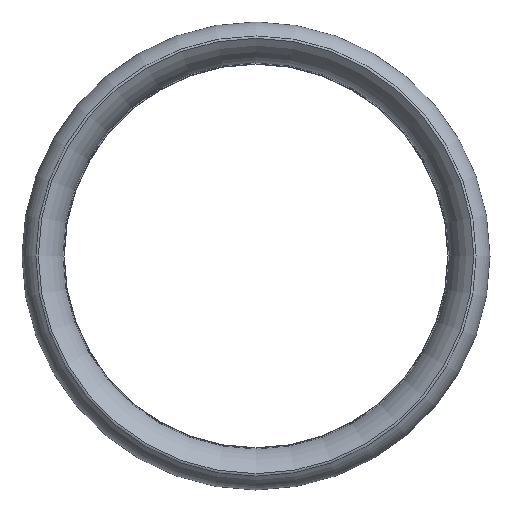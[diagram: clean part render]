
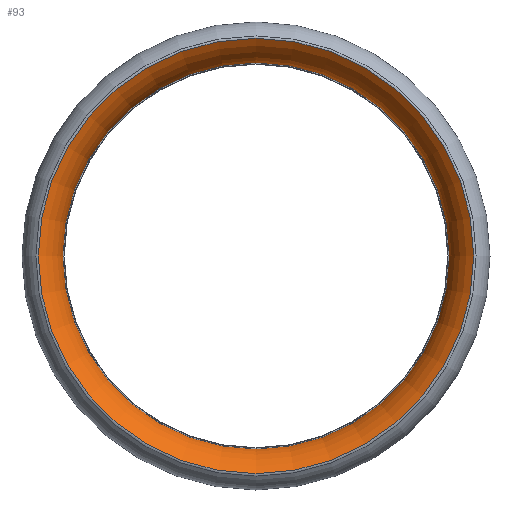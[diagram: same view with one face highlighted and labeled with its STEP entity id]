
A CAD part, front view. The second image highlights one B-rep face of the part: STEP entity #93.
In plain terms, the highlighted toroidal (fillet/blend) face has major radius 56.277 mm and minor radius 12.233 mm.
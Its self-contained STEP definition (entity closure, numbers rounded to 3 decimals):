
#7 = CARTESIAN_POINT ( 'NONE',  ( 0., -7.5, -50. ) ) ;
#13 = TOROIDAL_SURFACE ( 'NONE', #178, 56.277, 12.233 ) ;
#15 = DIRECTION ( 'NONE',  ( 0., -1., 0. ) ) ;
#18 = DIRECTION ( 'NONE',  ( 0., -1., 0. ) ) ;
#24 = VERTEX_POINT ( 'NONE', #91 ) ;
#50 = DIRECTION ( 'NONE',  ( 0., -1., 0. ) ) ;
#52 = CARTESIAN_POINT ( 'NONE',  ( 0., -7.5, 0. ) ) ;
#53 = FACE_OUTER_BOUND ( 'NONE', #173, .T. ) ;
#64 = EDGE_CURVE ( 'NONE', #24, #24, #189, .T. ) ;
#71 = CARTESIAN_POINT ( 'NONE',  ( 0., 0., 0. ) ) ;
#84 = EDGE_LOOP ( 'NONE', ( #114 ) ) ;
#87 = DIRECTION ( 'NONE',  ( 0., 0., -1. ) ) ;
#91 = CARTESIAN_POINT ( 'NONE',  ( 0., 0., 44.417 ) ) ;
#93 = ADVANCED_FACE ( 'NONE', ( #53, #98 ), #13, .T. ) ;
#98 = FACE_OUTER_BOUND ( 'NONE', #84, .T. ) ;
#101 = CARTESIAN_POINT ( 'NONE',  ( 0., 3., 0. ) ) ;
#114 = ORIENTED_EDGE ( 'NONE', *, *, #121, .T. ) ;
#119 = AXIS2_PLACEMENT_3D ( 'NONE', #71, #50, #122 ) ;
#121 = EDGE_CURVE ( 'NONE', #144, #144, #134, .T. ) ;
#122 = DIRECTION ( 'NONE',  ( 0., 0., 1. ) ) ;
#134 = CIRCLE ( 'NONE', #147, 50. ) ;
#144 = VERTEX_POINT ( 'NONE', #7 ) ;
#147 = AXIS2_PLACEMENT_3D ( 'NONE', #52, #15, #87 ) ;
#163 = DIRECTION ( 'NONE',  ( 0., 0., -1. ) ) ;
#173 = EDGE_LOOP ( 'NONE', ( #190 ) ) ;
#178 = AXIS2_PLACEMENT_3D ( 'NONE', #101, #18, #163 ) ;
#189 = CIRCLE ( 'NONE', #119, 44.417 ) ;
#190 = ORIENTED_EDGE ( 'NONE', *, *, #64, .F. ) ;
